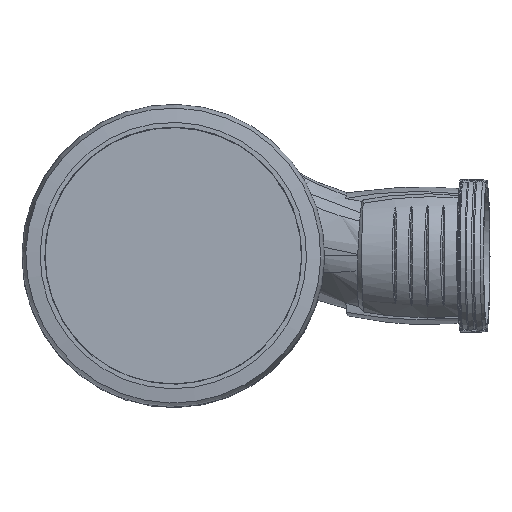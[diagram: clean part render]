
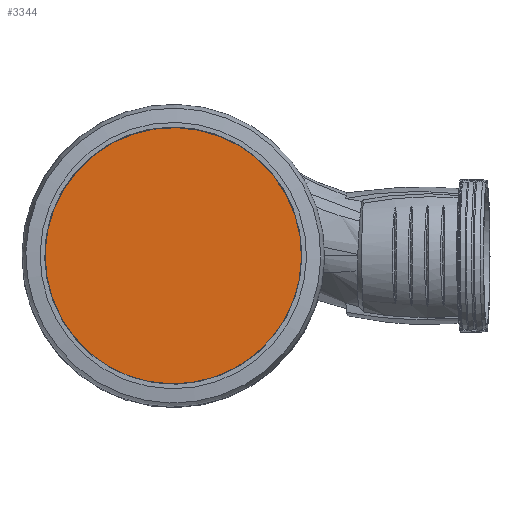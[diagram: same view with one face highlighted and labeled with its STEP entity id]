
A CAD part, top view. The second image highlights one B-rep face of the part: STEP entity #3344.
In plain terms, the highlighted planar face has unit normal (0, 0, 1).
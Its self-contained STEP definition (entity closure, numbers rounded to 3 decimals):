
#18=PLANE('',#3646);
#715=FACE_OUTER_BOUND('',#932,.T.);
#932=EDGE_LOOP('',(#2570));
#1171=CIRCLE('',#3647,55.5);
#1487=VERTEX_POINT('',#22238);
#1902=EDGE_CURVE('',#1487,#1487,#1171,.T.);
#2570=ORIENTED_EDGE('',*,*,#1902,.T.);
#3344=ADVANCED_FACE('',(#715),#18,.T.);
#3646=AXIS2_PLACEMENT_3D('',#22237,#4110,#4111);
#3647=AXIS2_PLACEMENT_3D('',#22239,#4112,#4113);
#4110=DIRECTION('center_axis',(0.,0.,1.));
#4111=DIRECTION('ref_axis',(1.,0.,0.));
#4112=DIRECTION('center_axis',(0.,0.,1.));
#4113=DIRECTION('ref_axis',(0.479,-0.878,0.));
#22237=CARTESIAN_POINT('Origin',(0.,0.,
17.5));
#22238=CARTESIAN_POINT('',(-26.608,48.706,17.5));
#22239=CARTESIAN_POINT('Origin',(0.,0.,
17.5));
